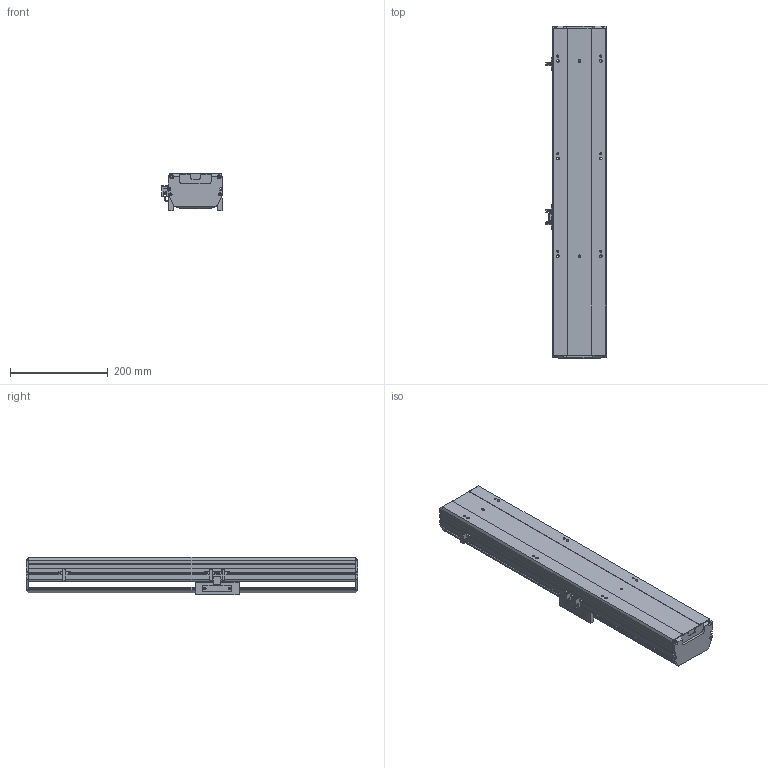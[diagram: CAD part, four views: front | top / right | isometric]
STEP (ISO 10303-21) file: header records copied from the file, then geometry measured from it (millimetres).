
FILE_DESCRIPTION (( 'STEP AP203' ), '1' );
FILE_NAME ('6.STEP', '2020-11-06T08:42:27', ( '' ), ( '' ), 'SwSTEP 2.0', 'SolidWorks 2016', '' );
FILE_SCHEMA (( 'CONFIG_CONTROL_DESIGN' ));
Length unit declared in the file: millimetre
Products named in the file (6): BTH11-M-04; BTH11-M-菁釱; 6; BTH11-M-02; BTH11-M-HZ; BTH11-M-01
Assembly tree (7 placements, depth 2):
  6
    BTH11-M-菁釱
    BTH11-M-01
    BTH11-M-02
    BTH11-M-04  x3
    BTH11-M-HZ
Bounding box: 123.7 x 680 x 76 mm (x, y, z)
Volume: 2485127.8 mm3; surface area: 519978.6 mm2
Topology: 9 solids, 9 shells, 849 faces, 2338 edges, 1520 vertices
Faces by surface type: plane 546, cylinder 255, cone 48
Entity records: 20493 total; most frequent: CARTESIAN_POINT 3919, ORIENTED_EDGE 3344, DIRECTION 3300, EDGE_CURVE 1672, LINE 1134, VECTOR 1134, VERTEX_POINT 1096, AXIS2_PLACEMENT_3D 1083
